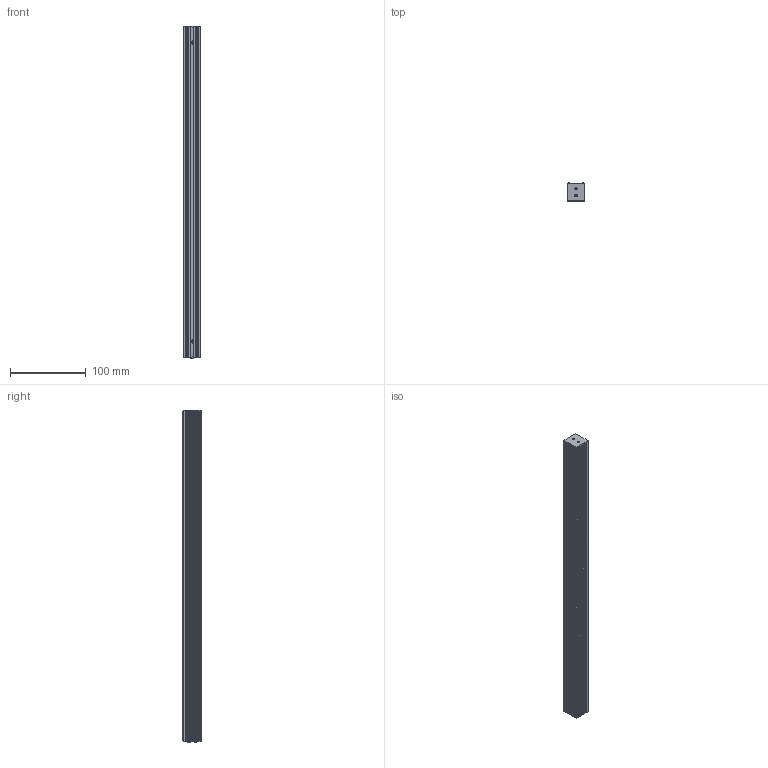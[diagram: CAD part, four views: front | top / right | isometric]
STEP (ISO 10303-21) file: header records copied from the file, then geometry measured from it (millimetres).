
FILE_DESCRIPTION((''),'2;1');
FILE_NAME('DSL-111-22','2020-03-23T',('ASUS'),(''),'PRO/ENGINEER BY PARAMETRIC TECHNOLOGY CORPORATION, 2008380','PRO/ENGINEER BY PARAMETRIC TECHNOLOGY CORPORATION, 2008380','');
FILE_SCHEMA(('CONFIG_CONTROL_DESIGN'));
Length unit declared in the file: millimetre
Products named in the file (1): DSL-111-22
Bounding box: 22 x 24.02 x 439 mm (x, y, z)
Volume: 202351.5 mm3; surface area: 77776.6 mm2
Topology: 1 solids, 5 shells, 279 faces, 712 edges, 464 vertices
Faces by surface type: plane 173, cylinder 86, cone 20
Entity records: 8401 total; most frequent: CARTESIAN_POINT 1460, DIRECTION 1452, ORIENTED_EDGE 1392, EDGE_CURVE 704, VECTOR 508, LINE 508, AXIS2_PLACEMENT_3D 472, VERTEX_POINT 464
